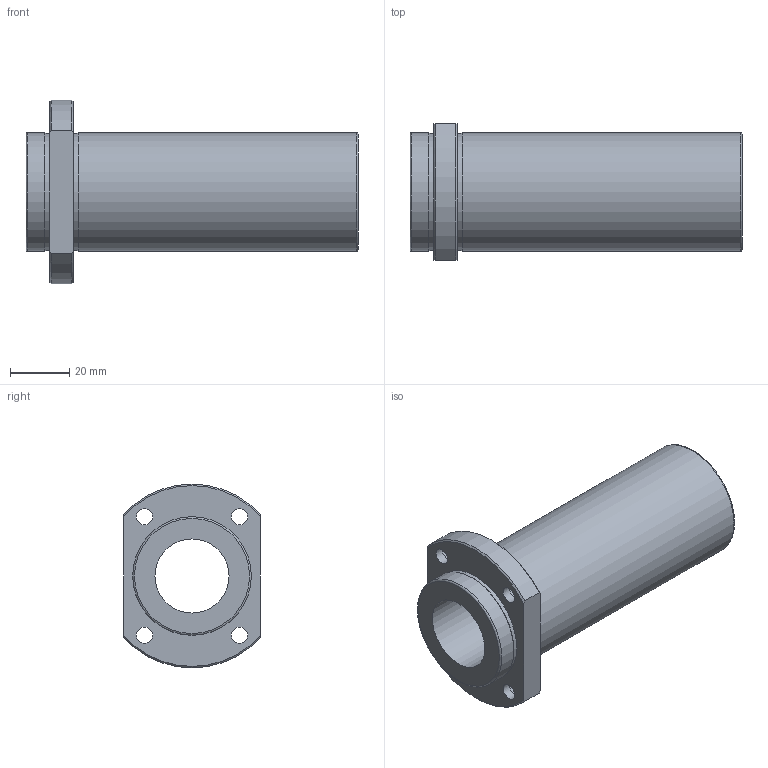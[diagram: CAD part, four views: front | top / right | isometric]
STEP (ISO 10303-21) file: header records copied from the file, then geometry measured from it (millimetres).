
FILE_DESCRIPTION(('STEP AP203'),'1');
FILE_NAME('//192.168.1.1/share/s-4 技術開発/s-4-4_CAD/s-4-4-3_見直し済み/002 修正済み/NFIO-VL/NFIO-VL_TOP/NFIO-25VLUU.step','2022-03-07T02:46:11',(' '),(' '),'Spatial InterOp 3D',' ',' ');
FILE_SCHEMA(('CONFIG_CONTROL_DESIGN'));
Length unit declared in the file: millimetre
Products named in the file (1): 1
Bounding box: 112 x 46 x 62 mm (x, y, z)
Volume: 94496.2 mm3; surface area: 28083.6 mm2
Topology: 1 solids, 1 shells, 33 faces, 67 edges, 44 vertices
Faces by surface type: cylinder 15, plane 12, cone 4, torus 2
Full cylindrical faces by diameter (mm): 5.5 x4, 9 x4, 25 x1, 39.5 x2, 40 x2
Entity records: 878 total; most frequent: CARTESIAN_POINT 154, DIRECTION 148, ORIENTED_EDGE 104, AXIS2_PLACEMENT_3D 70, EDGE_LOOP 66, EDGE_CURVE 52, FACE_OUTER_BOUND 48, VERTEX_POINT 44
